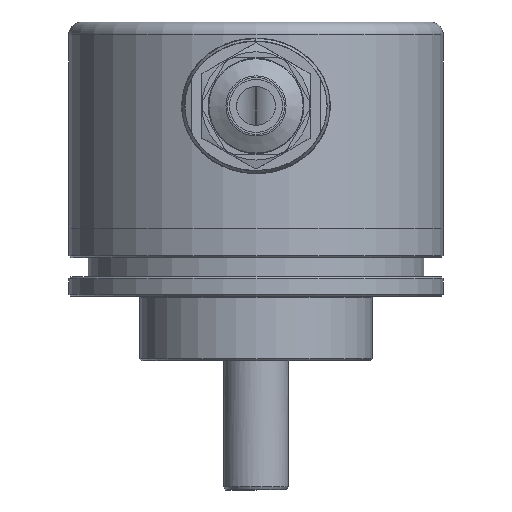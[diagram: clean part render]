
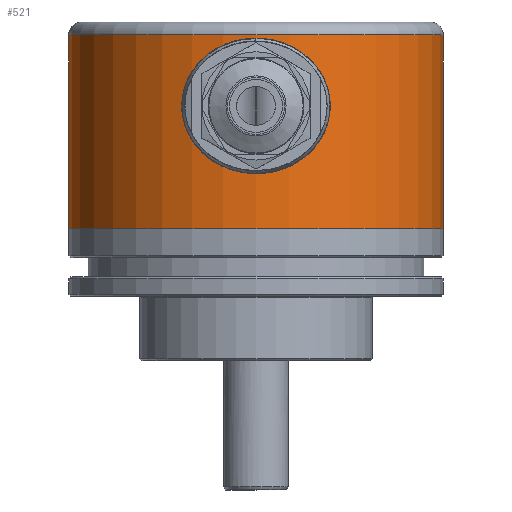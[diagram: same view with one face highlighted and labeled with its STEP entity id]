
A CAD part, front view. The second image highlights one B-rep face of the part: STEP entity #521.
In plain terms, the highlighted cylindrical face has radius 29 mm (diameter 58 mm), a full revolution.
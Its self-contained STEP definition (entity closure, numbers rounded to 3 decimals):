
#521 = ADVANCED_FACE( '', ( #1012, #1013 ), #1014, .T. );
#1012 = FACE_OUTER_BOUND( '', #3369, .T. );
#1013 = FACE_OUTER_BOUND( '', #3370, .T. );
#1014 = CYLINDRICAL_SURFACE( '', #3371, 29. );
#3369 = EDGE_LOOP( '', ( #4661 ) );
#3370 = EDGE_LOOP( '', ( #4662 ) );
#3371 = AXIS2_PLACEMENT_3D( '', #4663, #4664, #4665 );
#4661 = ORIENTED_EDGE( '', *, *, #5117, .F. );
#4662 = ORIENTED_EDGE( '', *, *, #5224, .T. );
#4663 = CARTESIAN_POINT( '', ( 0., 0., 26.1 ) );
#4664 = DIRECTION( '', ( 0., 0., -1. ) );
#4665 = DIRECTION( '', ( 1., 0., 0. ) );
#5117 = EDGE_CURVE( '', #5519, #5519, #5520, .T. );
#5224 = EDGE_CURVE( '', #5671, #5671, #5672, .T. );
#5519 = VERTEX_POINT( '', #6562 );
#5520 = CIRCLE( '', #6563, 29. );
#5671 = VERTEX_POINT( '', #7649 );
#5672 = CIRCLE( '', #7650, 29. );
#6562 = CARTESIAN_POINT( '', ( 29., 0., 30. ) );
#6563 = AXIS2_PLACEMENT_3D( '', #8049, #8050, #8051 );
#7649 = CARTESIAN_POINT( '', ( 29., 0., 0. ) );
#7650 = AXIS2_PLACEMENT_3D( '', #8173, #8174, #8175 );
#8049 = CARTESIAN_POINT( '', ( 0., 0., 30. ) );
#8050 = DIRECTION( '', ( 0., 0., 1. ) );
#8051 = DIRECTION( '', ( 1., 0., 0. ) );
#8173 = CARTESIAN_POINT( '', ( 0., 0., 0. ) );
#8174 = DIRECTION( '', ( 0., 0., 1. ) );
#8175 = DIRECTION( '', ( 1., 0., 0. ) );
